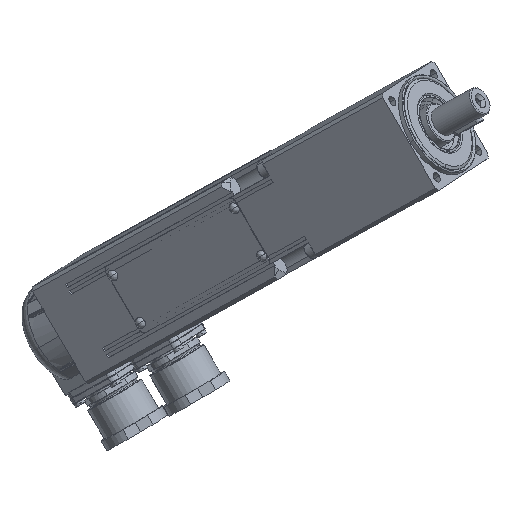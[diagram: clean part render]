
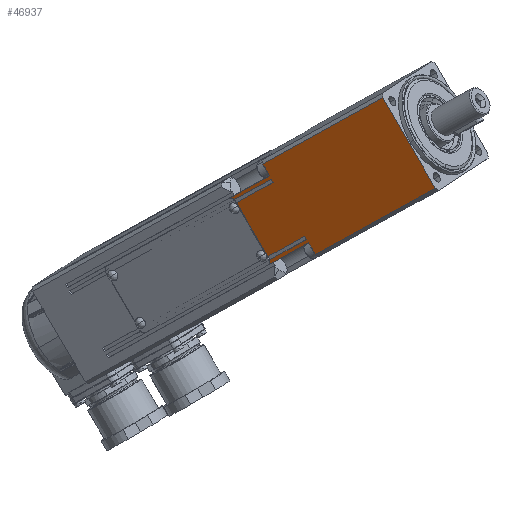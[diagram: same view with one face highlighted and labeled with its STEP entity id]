
A CAD part, front view. The second image highlights one B-rep face of the part: STEP entity #46937.
In plain terms, the highlighted planar face has unit normal (-0.468, -0.83, -0.304).
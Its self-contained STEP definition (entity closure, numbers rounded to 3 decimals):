
#12249=CARTESIAN_POINT('',(156.395,-270.97,431.372));
#12250=VERTEX_POINT('',#12249);
#12259=CARTESIAN_POINT('',(156.314,-271.291,432.371));
#12260=VERTEX_POINT('',#12259);
#12261=CARTESIAN_POINT('',(154.656,-270.228,432.025));
#12262=DIRECTION('',(0.468,0.829,0.304));
#12263=DIRECTION('',(0.869,-0.371,-0.327));
#12264=AXIS2_PLACEMENT_3D('',#12261,#12262,#12263);
#12265=CIRCLE('',#12264,2.);
#12266=EDGE_CURVE('',#12260,#12250,#12265,.T.);
#12302=CARTESIAN_POINT('',(141.391,-271.951,457.133));
#12303=VERTEX_POINT('',#12302);
#12327=CARTESIAN_POINT('',(142.23,-272.212,456.553));
#12328=VERTEX_POINT('',#12327);
#12336=CARTESIAN_POINT('',(141.075,-271.116,455.344));
#12337=DIRECTION('',(0.468,0.829,0.304));
#12338=DIRECTION('',(0.158,-0.418,0.895));
#12339=AXIS2_PLACEMENT_3D('',#12336,#12337,#12338);
#12340=CIRCLE('',#12339,2.0);
#12341=EDGE_CURVE('',#12303,#12328,#12340,.T.);
#46340=CARTESIAN_POINT('',(222.694,-319.328,461.143));
#46341=VERTEX_POINT('',#46340);
#46391=CARTESIAN_POINT('',(201.609,-320.707,497.347));
#46392=VERTEX_POINT('',#46391);
#46400=CARTESIAN_POINT('',(222.694,-319.328,461.143));
#46401=DIRECTION('',(-0.503,-0.033,0.864));
#46402=VECTOR('',#46401,41.92);
#46403=LINE('',#46400,#46402);
#46404=EDGE_CURVE('',#46341,#46392,#46403,.T.);
#46436=CARTESIAN_POINT('',(155.606,-271.376,433.692));
#46437=VERTEX_POINT('',#46436);
#46534=CARTESIAN_POINT('',(143.031,-272.198,455.284));
#46535=VERTEX_POINT('',#46534);
#46584=CARTESIAN_POINT('',(140.069,-271.181,457.071));
#46585=VERTEX_POINT('',#46584);
#46586=CARTESIAN_POINT('',(141.075,-271.116,455.344));
#46587=DIRECTION('',(0.468,0.829,0.304));
#46588=DIRECTION('',(0.158,-0.418,0.895));
#46589=AXIS2_PLACEMENT_3D('',#46586,#46587,#46588);
#46590=CIRCLE('',#46589,2.0);
#46591=EDGE_CURVE('',#46585,#12303,#46590,.T.);
#46610=CARTESIAN_POINT('',(155.662,-270.162,430.297));
#46611=VERTEX_POINT('',#46610);
#46618=CARTESIAN_POINT('',(154.656,-270.228,432.025));
#46619=DIRECTION('',(0.468,0.829,0.304));
#46620=DIRECTION('',(0.869,-0.371,-0.327));
#46621=AXIS2_PLACEMENT_3D('',#46618,#46619,#46620);
#46622=CIRCLE('',#46621,2.);
#46623=EDGE_CURVE('',#12250,#46611,#46622,.T.);
#46641=CARTESIAN_POINT('',(143.031,-272.198,455.284));
#46642=DIRECTION('',(0.503,0.033,-0.864));
#46643=VECTOR('',#46642,25.);
#46644=LINE('',#46641,#46643);
#46645=EDGE_CURVE('',#46535,#46437,#46644,.T.);
#46836=CARTESIAN_POINT('',(72.493,-221.597,425.924));
#46837=DIRECTION('',(-0.468,-0.829,-0.304));
#46838=DIRECTION('',(-0.726,0.558,-0.402));
#46839=AXIS2_PLACEMENT_3D('',#46836,#46837,#46838);
#46840=PLANE('',#46839);
#46841=ORIENTED_EDGE('',*,*,#46591,.T.);
#46842=ORIENTED_EDGE('',*,*,#12341,.T.);
#46843=CARTESIAN_POINT('',(156.986,-283.538,464.716));
#46844=VERTEX_POINT('',#46843);
#46845=CARTESIAN_POINT('',(142.23,-272.212,456.553));
#46846=DIRECTION('',(0.726,-0.558,0.402));
#46847=VECTOR('',#46846,20.314);
#46848=LINE('',#46845,#46847);
#46849=EDGE_CURVE('',#12328,#46844,#46848,.T.);
#46850=ORIENTED_EDGE('',*,*,#46849,.T.);
#46851=CARTESIAN_POINT('',(157.74,-283.489,463.42));
#46852=VERTEX_POINT('',#46851);
#46853=CARTESIAN_POINT('',(156.986,-283.538,464.716));
#46854=DIRECTION('',(0.503,0.033,-0.864));
#46855=VECTOR('',#46854,1.5);
#46856=LINE('',#46853,#46855);
#46857=EDGE_CURVE('',#46844,#46852,#46856,.T.);
#46858=ORIENTED_EDGE('',*,*,#46857,.T.);
#46859=CARTESIAN_POINT('',(157.74,-283.489,463.42));
#46860=DIRECTION('',(-0.726,0.558,-0.402));
#46861=VECTOR('',#46860,20.25);
#46862=LINE('',#46859,#46861);
#46863=EDGE_CURVE('',#46852,#46535,#46862,.T.);
#46864=ORIENTED_EDGE('',*,*,#46863,.T.);
#46865=ORIENTED_EDGE('',*,*,#46645,.T.);
#46866=CARTESIAN_POINT('',(170.315,-282.667,441.829));
#46867=VERTEX_POINT('',#46866);
#46868=CARTESIAN_POINT('',(155.606,-271.376,433.692));
#46869=DIRECTION('',(0.726,-0.558,0.402));
#46870=VECTOR('',#46869,20.25);
#46871=LINE('',#46868,#46870);
#46872=EDGE_CURVE('',#46437,#46867,#46871,.T.);
#46873=ORIENTED_EDGE('',*,*,#46872,.T.);
#46874=CARTESIAN_POINT('',(171.07,-282.617,440.533));
#46875=VERTEX_POINT('',#46874);
#46876=CARTESIAN_POINT('',(170.315,-282.667,441.829));
#46877=DIRECTION('',(0.503,0.033,-0.864));
#46878=VECTOR('',#46877,1.5);
#46879=LINE('',#46876,#46878);
#46880=EDGE_CURVE('',#46867,#46875,#46879,.T.);
#46881=ORIENTED_EDGE('',*,*,#46880,.T.);
#46882=CARTESIAN_POINT('',(171.07,-282.617,440.533));
#46883=DIRECTION('',(-0.726,0.558,-0.402));
#46884=VECTOR('',#46883,20.314);
#46885=LINE('',#46882,#46884);
#46886=EDGE_CURVE('',#46875,#12260,#46885,.T.);
#46887=ORIENTED_EDGE('',*,*,#46886,.T.);
#46888=ORIENTED_EDGE('',*,*,#12266,.T.);
#46889=ORIENTED_EDGE('',*,*,#46623,.T.);
#46890=CARTESIAN_POINT('',(171.824,-282.568,439.238));
#46891=VERTEX_POINT('',#46890);
#46892=CARTESIAN_POINT('',(155.662,-270.162,430.297));
#46893=DIRECTION('',(0.726,-0.558,0.402));
#46894=VECTOR('',#46893,22.25);
#46895=LINE('',#46892,#46894);
#46896=EDGE_CURVE('',#46611,#46891,#46895,.T.);
#46897=ORIENTED_EDGE('',*,*,#46896,.T.);
#46898=CARTESIAN_POINT('',(174.571,-282.389,434.522));
#46899=VERTEX_POINT('',#46898);
#46900=CARTESIAN_POINT('',(171.824,-282.568,439.238));
#46901=DIRECTION('',(0.503,0.033,-0.864));
#46902=VECTOR('',#46901,5.46);
#46903=LINE('',#46900,#46902);
#46904=EDGE_CURVE('',#46891,#46899,#46903,.T.);
#46905=ORIENTED_EDGE('',*,*,#46904,.T.);
#46906=CARTESIAN_POINT('',(174.571,-282.389,434.522));
#46907=DIRECTION('',(0.726,-0.558,0.402));
#46908=VECTOR('',#46907,66.25);
#46909=LINE('',#46906,#46908);
#46910=EDGE_CURVE('',#46899,#46341,#46909,.T.);
#46911=ORIENTED_EDGE('',*,*,#46910,.T.);
#46912=ORIENTED_EDGE('',*,*,#46404,.T.);
#46913=CARTESIAN_POINT('',(153.485,-283.767,470.727));
#46914=VERTEX_POINT('',#46913);
#46915=CARTESIAN_POINT('',(153.485,-283.767,470.727));
#46916=DIRECTION('',(0.726,-0.558,0.402));
#46917=VECTOR('',#46916,66.25);
#46918=LINE('',#46915,#46917);
#46919=EDGE_CURVE('',#46914,#46392,#46918,.T.);
#46920=ORIENTED_EDGE('',*,*,#46919,.F.);
#46921=CARTESIAN_POINT('',(156.231,-283.588,466.011));
#46922=VERTEX_POINT('',#46921);
#46923=CARTESIAN_POINT('',(153.485,-283.767,470.727));
#46924=DIRECTION('',(0.503,0.033,-0.864));
#46925=VECTOR('',#46924,5.46);
#46926=LINE('',#46923,#46925);
#46927=EDGE_CURVE('',#46914,#46922,#46926,.T.);
#46928=ORIENTED_EDGE('',*,*,#46927,.T.);
#46929=CARTESIAN_POINT('',(156.231,-283.588,466.011));
#46930=DIRECTION('',(-0.726,0.558,-0.402));
#46931=VECTOR('',#46930,22.25);
#46932=LINE('',#46929,#46931);
#46933=EDGE_CURVE('',#46922,#46585,#46932,.T.);
#46934=ORIENTED_EDGE('',*,*,#46933,.T.);
#46935=EDGE_LOOP('',(#46841,#46842,#46850,#46858,#46864,#46865,#46873,#46881,#46887,#46888,#46889,#46897,#46905,#46911,#46912,#46920,#46928,#46934));
#46936=FACE_OUTER_BOUND('',#46935,.T.);
#46937=ADVANCED_FACE('',(#46936),#46840,.T.);
